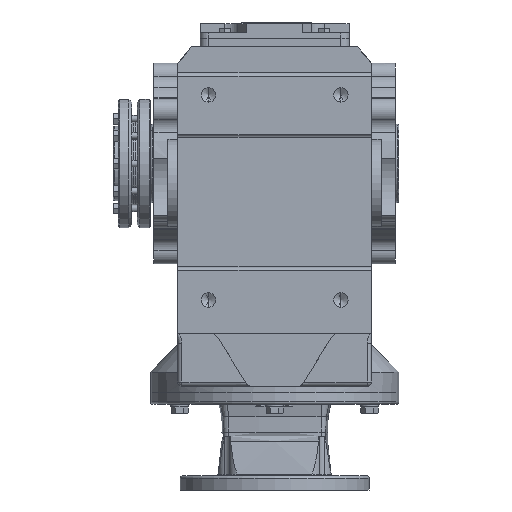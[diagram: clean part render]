
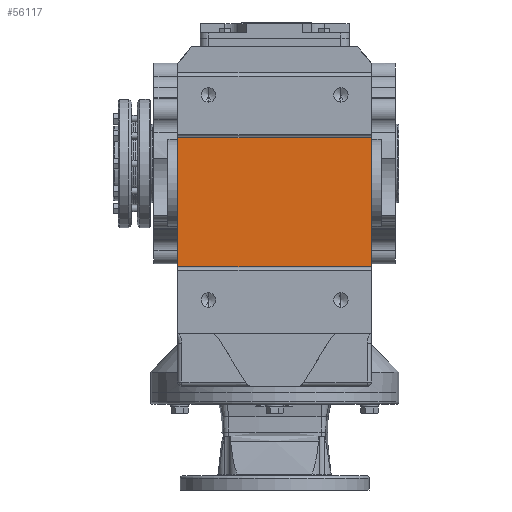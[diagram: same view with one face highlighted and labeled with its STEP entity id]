
A CAD part, front view. The second image highlights one B-rep face of the part: STEP entity #56117.
In plain terms, the highlighted planar face has unit normal (0, -1, 0).
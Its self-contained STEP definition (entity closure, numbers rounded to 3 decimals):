
#4616 = VERTEX_POINT ( 'NONE', #29084 ) ;
#4648 = VERTEX_POINT ( 'NONE', #29116 ) ;
#4662 = VERTEX_POINT ( 'NONE', #29130 ) ;
#4672 = VERTEX_POINT ( 'NONE', #29140 ) ;
#7343 = EDGE_LOOP ( 'NONE', ( #8341, #8342, #8343, #8344 ) ) ;
#8341 = ORIENTED_EDGE ( 'NONE', *, *, #35528, .F. ) ;
#8342 = ORIENTED_EDGE ( 'NONE', *, *, #35529, .F. ) ;
#8343 = ORIENTED_EDGE ( 'NONE', *, *, #35531, .T. ) ;
#8344 = ORIENTED_EDGE ( 'NONE', *, *, #35422, .T. ) ;
#29084 = CARTESIAN_POINT ( 'NONE',  ( 117., -260., 31. ) ) ;
#29116 = CARTESIAN_POINT ( 'NONE',  ( 117., -260., -125. ) ) ;
#29130 = CARTESIAN_POINT ( 'NONE',  ( -117., -260., 31. ) ) ;
#29140 = CARTESIAN_POINT ( 'NONE',  ( -117., -260., -125. ) ) ;
#35422 = EDGE_CURVE ( 'NONE', #4648, #4616, #55264, .T. ) ;
#35528 = EDGE_CURVE ( 'NONE', #4662, #4616, #55349, .T. ) ;
#35529 = EDGE_CURVE ( 'NONE', #4672, #4662, #55350, .T. ) ;
#35531 = EDGE_CURVE ( 'NONE', #4672, #4648, #55352, .T. ) ;
#37018 = DIRECTION ( 'NONE',  ( 0., 0., 1. ) ) ;
#37023 = CARTESIAN_POINT ( 'NONE',  ( 117., -260., 31. ) ) ;
#37243 = CARTESIAN_POINT ( 'NONE',  ( -145., -260., 31. ) ) ;
#37294 = DIRECTION ( 'NONE',  ( 1., 0., 0. ) ) ;
#37343 = CARTESIAN_POINT ( 'NONE',  ( -117., -260., 31. ) ) ;
#37346 = DIRECTION ( 'NONE',  ( 0., 0., 1. ) ) ;
#37348 = CARTESIAN_POINT ( 'NONE',  ( -145., -260., -125. ) ) ;
#37351 = DIRECTION ( 'NONE',  ( 1., 0., 0. ) ) ;
#42782 = FACE_OUTER_BOUND ( 'NONE', #7343, .T. ) ;
#51502 = CARTESIAN_POINT ( 'NONE',  ( -145., -260., 31. ) ) ;
#51512 = PLANE ( 'NONE',  #57304 ) ;
#51517 = DIRECTION ( 'NONE',  ( 0., -1., 0. ) ) ;
#51519 = DIRECTION ( 'NONE',  ( 0., 0., -1. ) ) ;
#55264 = LINE ( 'NONE', #37023, #55268 ) ;
#55268 = VECTOR ( 'NONE', #37018, 1000. ) ;
#55349 = LINE ( 'NONE', #37243, #55351 ) ;
#55350 = LINE ( 'NONE', #37343, #55353 ) ;
#55351 = VECTOR ( 'NONE', #37294, 1000. ) ;
#55352 = LINE ( 'NONE', #37348, #55355 ) ;
#55353 = VECTOR ( 'NONE', #37346, 1000. ) ;
#55355 = VECTOR ( 'NONE', #37351, 1000. ) ;
#56117 = ADVANCED_FACE ( 'NONE', ( #42782 ), #51512, .T. ) ;
#57304 = AXIS2_PLACEMENT_3D ( 'NONE', #51502, #51517, #51519 ) ;
